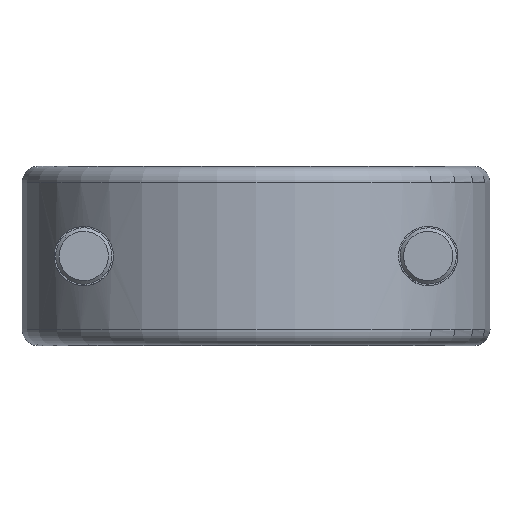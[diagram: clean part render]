
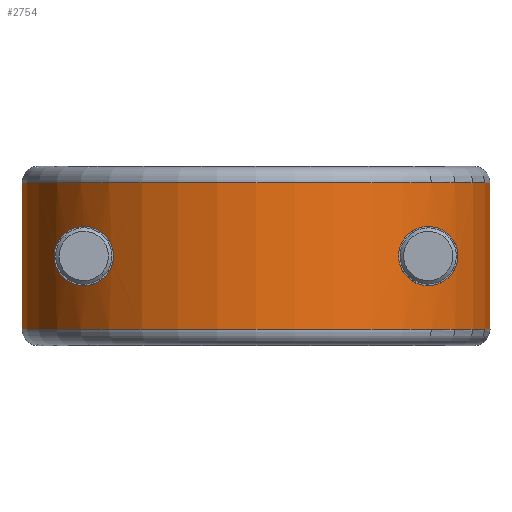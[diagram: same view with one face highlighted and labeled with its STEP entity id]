
A CAD part, front view. The second image highlights one B-rep face of the part: STEP entity #2754.
In plain terms, the highlighted cylindrical face has radius 17 mm (diameter 34 mm), a partial arc.
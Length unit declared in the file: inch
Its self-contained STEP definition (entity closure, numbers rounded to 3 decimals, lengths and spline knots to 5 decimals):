
#2164=CARTESIAN_POINT('',(0.66856,-0.0313,
0.04605));
#2314=CARTESIAN_POINT('',(0.,0.,0.46575));
#2315=DIRECTION('',(0.,0.,1.));
#2316=DIRECTION('',(-0.999,-0.047,0.));
#2317=AXIS2_PLACEMENT_3D('',#2314,#2315,#2316);
#2319=DIRECTION('',(0.,0.,-1.));
#2320=VECTOR('',#2319,0.4197);
#2321=CARTESIAN_POINT('',(0.66856,-0.0313,
0.46576));
#2322=LINE('',#2321,#2320);
#2323=CARTESIAN_POINT('',(0.,0.,0.04606));
#2324=DIRECTION('',(0.,0.,-1.));
#2325=DIRECTION('',(0.999,-0.047,0.));
#2326=AXIS2_PLACEMENT_3D('',#2323,#2324,#2325);
#2328=DIRECTION('',(0.,0.,1.));
#2329=VECTOR('',#2328,0.4197);
#2330=CARTESIAN_POINT('',(-0.66856,-0.0313,
0.04605));
#2331=LINE('',#2330,#2329);
#2332=CARTESIAN_POINT('',(-0.492,-0.45375,0.34066));
#2333=CARTESIAN_POINT('',(-0.48506,-0.46127,0.34066));
#2334=CARTESIAN_POINT('',(-0.47174,-0.47503,
0.33896));
#2335=CARTESIAN_POINT('',(-0.45375,-0.49217,
0.3323));
#2336=CARTESIAN_POINT('',(-0.43834,-0.50589,
0.32232));
#2337=CARTESIAN_POINT('',(-0.4259,-0.51636,
0.30987));
#2338=CARTESIAN_POINT('',(-0.41651,-0.52393,
0.29564));
#2339=CARTESIAN_POINT('',(-0.41028,-0.5288,
0.28025));
#2340=CARTESIAN_POINT('',(-0.40712,-0.53123,
0.26414));
#2341=CARTESIAN_POINT('',(-0.40713,-0.53123,
0.24775));
#2342=CARTESIAN_POINT('',(-0.41027,-0.52881,
0.23166));
#2343=CARTESIAN_POINT('',(-0.41645,-0.52397,
0.21628));
#2344=CARTESIAN_POINT('',(-0.4258,-0.51644,
0.20206));
#2345=CARTESIAN_POINT('',(-0.43819,-0.50601,
0.18962));
#2346=CARTESIAN_POINT('',(-0.45358,-0.49233,
0.1796));
#2347=CARTESIAN_POINT('',(-0.4716,-0.47516,
0.17288));
#2348=CARTESIAN_POINT('',(-0.48501,-0.46133,
0.17116));
#2349=CARTESIAN_POINT('',(-0.492,-0.45375,0.17116));
#2351=CARTESIAN_POINT('',(0.492,-0.45375,0.17116));
#2352=CARTESIAN_POINT('',(0.48507,-0.46127,
0.17116));
#2353=CARTESIAN_POINT('',(0.47169,-0.47509,
0.17276));
#2354=CARTESIAN_POINT('',(0.45309,-0.49279,
0.17973));
#2355=CARTESIAN_POINT('',(0.44263,-0.50207,
0.18674));
#2356=CARTESIAN_POINT('',(0.4378,-0.50624,
0.19075));
#2358=CARTESIAN_POINT('',(0.492,-0.45375,0.34066));
#2359=CARTESIAN_POINT('',(0.49932,-0.44581,0.34066));
#2360=CARTESIAN_POINT('',(0.51273,-0.4305,
0.33881));
#2361=CARTESIAN_POINT('',(0.52956,-0.40954,
0.33253));
#2362=CARTESIAN_POINT('',(0.54336,-0.39097,
0.32391));
#2363=CARTESIAN_POINT('',(0.55444,-0.37504,
0.31383));
#2364=CARTESIAN_POINT('',(0.56317,-0.36175,
0.30266));
#2365=CARTESIAN_POINT('',(0.56977,-0.35122,
0.29047));
#2366=CARTESIAN_POINT('',(0.57432,-0.34368,
0.27748));
#2367=CARTESIAN_POINT('',(0.57689,-0.33934,
0.26301));
#2368=CARTESIAN_POINT('',(0.57681,-0.33947,
0.24811));
#2369=CARTESIAN_POINT('',(0.57419,-0.34391,
0.23386));
#2370=CARTESIAN_POINT('',(0.56966,-0.35139,
0.22113));
#2371=CARTESIAN_POINT('',(0.56314,-0.36179,
0.20912));
#2372=CARTESIAN_POINT('',(0.55444,-0.37503,
0.19799));
#2373=CARTESIAN_POINT('',(0.54335,-0.39099,
0.18788));
#2374=CARTESIAN_POINT('',(0.5295,-0.40962,
0.17924));
#2375=CARTESIAN_POINT('',(0.51264,-0.43061,
0.17298));
#2376=CARTESIAN_POINT('',(0.49928,-0.44586,
0.17116));
#2377=CARTESIAN_POINT('',(0.492,-0.45375,0.17116));
#2379=CARTESIAN_POINT('',(0.4378,-0.50624,
0.19075));
#2380=CARTESIAN_POINT('',(0.43326,-0.51017,
0.19453));
#2381=CARTESIAN_POINT('',(0.42524,-0.5169,
0.2028));
#2382=CARTESIAN_POINT('',(0.41621,-0.52416,
0.21681));
#2383=CARTESIAN_POINT('',(0.41021,-0.52885,
0.23187));
#2384=CARTESIAN_POINT('',(0.4072,-0.53117,
0.24732));
#2385=CARTESIAN_POINT('',(0.40707,-0.53127,
0.26317));
#2386=CARTESIAN_POINT('',(0.4099,-0.52909,
0.27897));
#2387=CARTESIAN_POINT('',(0.41598,-0.52435,
0.29465));
#2388=CARTESIAN_POINT('',(0.42537,-0.5168,
0.30925));
#2389=CARTESIAN_POINT('',(0.43798,-0.5062,
0.32205));
#2390=CARTESIAN_POINT('',(0.45349,-0.49241,
0.33218));
#2391=CARTESIAN_POINT('',(0.47161,-0.47516,
0.33895));
#2392=CARTESIAN_POINT('',(0.48501,-0.46132,0.34066));
#2393=CARTESIAN_POINT('',(0.492,-0.45375,0.34066));
#2429=CARTESIAN_POINT('',(-0.492,-0.45375,0.34066));
#2430=CARTESIAN_POINT('',(-0.49896,-0.4462,0.34066));
#2431=CARTESIAN_POINT('',(-0.51188,-0.43148,
0.33896));
#2432=CARTESIAN_POINT('',(-0.52812,-0.41131,
0.33315));
#2433=CARTESIAN_POINT('',(-0.54166,-0.39332,
0.32513));
#2434=CARTESIAN_POINT('',(-0.55259,-0.37773,
0.3157));
#2435=CARTESIAN_POINT('',(-0.56132,-0.36459,
0.30527));
#2436=CARTESIAN_POINT('',(-0.56808,-0.35394,
0.29399));
#2437=CARTESIAN_POINT('',(-0.573,-0.34595,
0.28196));
#2438=CARTESIAN_POINT('',(-0.57612,-0.3407,
0.26892));
#2439=CARTESIAN_POINT('',(-0.57713,-0.33893,
0.25493));
#2440=CARTESIAN_POINT('',(-0.57581,-0.34123,
0.24109));
#2441=CARTESIAN_POINT('',(-0.57251,-0.34677,
0.22843));
#2442=CARTESIAN_POINT('',(-0.56751,-0.35485,
0.21672));
#2443=CARTESIAN_POINT('',(-0.56073,-0.36549,
0.20574));
#2444=CARTESIAN_POINT('',(-0.55202,-0.37857,
0.19554));
#2445=CARTESIAN_POINT('',(-0.54113,-0.39405,
0.18632));
#2446=CARTESIAN_POINT('',(-0.52769,-0.41187,
0.17847));
#2447=CARTESIAN_POINT('',(-0.51161,-0.43179,
0.1728));
#2448=CARTESIAN_POINT('',(-0.49886,-0.44631,
0.17116));
#2449=CARTESIAN_POINT('',(-0.492,-0.45375,0.17116));
#2490=CARTESIAN_POINT('',(-0.492,-0.45375,0.17116));
#2492=VERTEX_POINT('',#2490);
#2494=VERTEX_POINT('',#2429);
#2497=VERTEX_POINT('',#2351);
#2498=VERTEX_POINT('',#2356);
#2499=VERTEX_POINT('',#2358);
#2500=CARTESIAN_POINT('',(-0.66856,-0.0313,
0.46575));
#2501=CARTESIAN_POINT('',(0.66856,-0.0313,
0.46575));
#2502=VERTEX_POINT('',#2500);
#2503=VERTEX_POINT('',#2501);
#2508=CARTESIAN_POINT('',(-0.66856,-0.0313,
0.04605));
#2509=VERTEX_POINT('',#2508);
#2548=VERTEX_POINT('',#2164);
#2728=CARTESIAN_POINT('',(0.,0.,0.04606));
#2729=DIRECTION('',(0.,0.,-1.));
#2730=DIRECTION('',(-1.,0.,0.));
#2731=AXIS2_PLACEMENT_3D('',#2728,#2729,#2730);
#2732=CYLINDRICAL_SURFACE('',#2731,0.66929);
#2733=ORIENTED_EDGE('',*,*,#2720,.T.);
#2734=ORIENTED_EDGE('',*,*,#2614,.T.);
#2736=ORIENTED_EDGE('',*,*,#2735,.T.);
#2737=ORIENTED_EDGE('',*,*,#2683,.T.);
#2738=EDGE_LOOP('',(#2733,#2734,#2736,#2737));
#2739=FACE_OUTER_BOUND('',#2738,.F.);
#2741=ORIENTED_EDGE('',*,*,#2740,.T.);
#2743=ORIENTED_EDGE('',*,*,#2742,.F.);
#2744=EDGE_LOOP('',(#2741,#2743));
#2745=FACE_BOUND('',#2744,.F.);
#2747=ORIENTED_EDGE('',*,*,#2746,.F.);
#2749=ORIENTED_EDGE('',*,*,#2748,.F.);
#2751=ORIENTED_EDGE('',*,*,#2750,.F.);
#2752=EDGE_LOOP('',(#2747,#2749,#2751));
#2753=FACE_BOUND('',#2752,.F.);
#2318=CIRCLE('',#2317,0.66929);
#2327=CIRCLE('',#2326,0.66929);
#2350=B_SPLINE_CURVE_WITH_KNOTS('',3,(#2332,#2333,#2334,#2335,#2336,#2337,#2338,
#2339,#2340,#2341,#2342,#2343,#2344,#2345,#2346,#2347,#2348,#2349),
.UNSPECIFIED.,.F.,.F.,(4,1,1,1,1,1,1,1,1,1,1,1,1,1,1,4),(0.,0.06667,
0.13333,0.2,0.26667,0.33333,0.4,
0.46667,0.53333,0.6,0.66667,0.73333,
0.8,0.86667,0.93333,1.),.UNSPECIFIED.);
#2357=B_SPLINE_CURVE_WITH_KNOTS('',3,(#2351,#2352,#2353,#2354,#2355,#2356),
.UNSPECIFIED.,.F.,.F.,(4,1,1,4),(0.,0.33333,0.66667,1.),
.UNSPECIFIED.);
#2378=B_SPLINE_CURVE_WITH_KNOTS('',3,(#2358,#2359,#2360,#2361,#2362,#2363,#2364,
#2365,#2366,#2367,#2368,#2369,#2370,#2371,#2372,#2373,#2374,#2375,#2376,#2377),
.UNSPECIFIED.,.F.,.F.,(4,1,1,1,1,1,1,1,1,1,1,1,1,1,1,1,1,4),(0.,
0.05882,0.11765,0.17647,0.23529,
0.29412,0.35294,0.41176,0.47059,
0.52941,0.58824,0.64706,0.70588,
0.76471,0.82353,0.88235,0.94118,1.),
.UNSPECIFIED.);
#2394=B_SPLINE_CURVE_WITH_KNOTS('',3,(#2379,#2380,#2381,#2382,#2383,#2384,#2385,
#2386,#2387,#2388,#2389,#2390,#2391,#2392,#2393),.UNSPECIFIED.,.F.,.F.,(4,1,1,1,
1,1,1,1,1,1,1,1,4),(0.,0.08333,0.16667,0.25,
0.33333,0.41667,0.5,0.58333,0.66667,
0.75,0.83333,0.91667,1.),.UNSPECIFIED.);
#2450=B_SPLINE_CURVE_WITH_KNOTS('',3,(#2429,#2430,#2431,#2432,#2433,#2434,#2435,
#2436,#2437,#2438,#2439,#2440,#2441,#2442,#2443,#2444,#2445,#2446,#2447,#2448,
#2449),.UNSPECIFIED.,.F.,.F.,(4,1,1,1,1,1,1,1,1,1,1,1,1,1,1,1,1,1,4),(0.,
0.05556,0.11111,0.16667,0.22222,
0.27778,0.33333,0.38889,0.44444,0.5,
0.55556,0.61111,0.66667,0.72222,
0.77778,0.83333,0.88889,0.94444,1.),
.UNSPECIFIED.);
#2614=EDGE_CURVE('',#2503,#2548,#2322,.T.);
#2683=EDGE_CURVE('',#2509,#2502,#2331,.T.);
#2720=EDGE_CURVE('',#2502,#2503,#2318,.T.);
#2735=EDGE_CURVE('',#2548,#2509,#2327,.T.);
#2740=EDGE_CURVE('',#2494,#2492,#2450,.T.);
#2742=EDGE_CURVE('',#2494,#2492,#2350,.T.);
#2746=EDGE_CURVE('',#2497,#2498,#2357,.T.);
#2748=EDGE_CURVE('',#2499,#2497,#2378,.T.);
#2750=EDGE_CURVE('',#2498,#2499,#2394,.T.);
#2754=ADVANCED_FACE('',(#2739,#2745,#2753),#2732,.T.);
